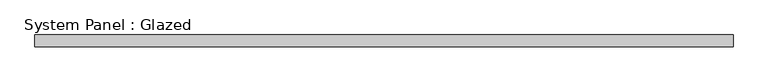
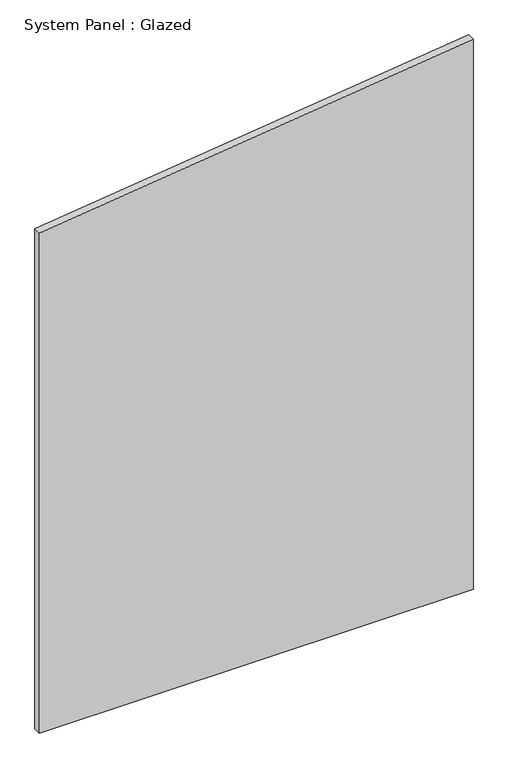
"""IFC4 building model written with IfcOpenShell, lengths in millimetres: plate geometry, System Panel : Glazed."""

from ifc_helpers import new_model, si_unit, frame, origin, place, context, project, spatial, polyline, outline, extrude, source, transform, mapped, element, save


def system_panel_glazed_4bb1f2ed(model_context):
    return source(origin(), model_context, "Body", "SweptSolid", [
        extrude(outline(polyline([(0.0, -726.9631579), (0.0, 726.9631579), (1949.6406423, 726.9631579), (1771.120938, -726.9631579), (0.0, -726.9631579)])), frame((0.0, 24.5, 0.0), z_axis=(0.0, 1.0, 0.0), x_axis=(0.0, 0.0, 1.0)), (0.0, 0.0, 1.0), 25.0),
    ])


if __name__ == "__main__":
    model = new_model("IFC4")
    model_context = context("Model", 3, world=origin())
    ifc_project = project(units=[si_unit("LENGTHUNIT", "METRE", prefix="MILLI")], contexts=[model_context])
    site = spatial("IfcSite", under=ifc_project)
    building = spatial("IfcBuilding", under=site)
    placement = place(None, origin())
    system_panel_glazed_shape = system_panel_glazed_4bb1f2ed(model_context)
    element("IfcPlate", 1, ObjectType="System Panel : Glazed", at=placement, inside=building, context=model_context, shape_type="MappedRepresentation", body=[
        mapped(system_panel_glazed_shape, transform((0.0, 0.0, 0.0), x_axis=(1.0, 0.0, 0.0), y_axis=(0.0, 1.0, 0.0), z_axis=(0.0, 0.0, 1.0))),
    ])
    save(model, "model.ifc")
